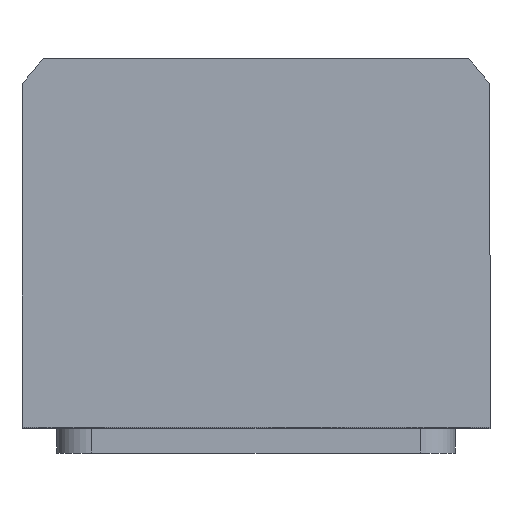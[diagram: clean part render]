
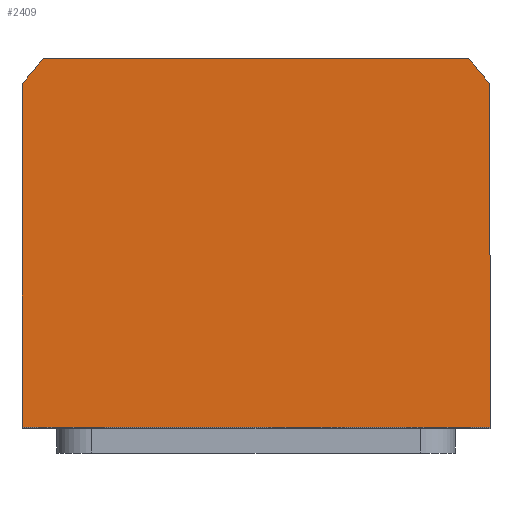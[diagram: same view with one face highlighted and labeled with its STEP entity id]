
A CAD part, top view. The second image highlights one B-rep face of the part: STEP entity #2409.
In plain terms, the highlighted planar face has unit normal (0, 0, 1).
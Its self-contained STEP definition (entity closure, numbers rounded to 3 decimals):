
#193 = VERTEX_POINT ( 'NONE', #3774 ) ;
#358 = EDGE_CURVE ( 'NONE', #725, #10307, #9234, .T. ) ;
#406 = CARTESIAN_POINT ( 'NONE',  ( 47., -34., 77.5 ) ) ;
#417 = DIRECTION ( 'NONE',  ( 0., 0., 1. ) ) ;
#419 = ORIENTED_EDGE ( 'NONE', *, *, #4591, .T. ) ;
#454 = DIRECTION ( 'NONE',  ( 1., 0., 0. ) ) ;
#625 = CARTESIAN_POINT ( 'NONE',  ( 0., 0., 77.5 ) ) ;
#707 = ORIENTED_EDGE ( 'NONE', *, *, #4336, .T. ) ;
#725 = VERTEX_POINT ( 'NONE', #7716 ) ;
#731 = CARTESIAN_POINT ( 'NONE',  ( 0., 0., 77.5 ) ) ;
#886 = AXIS2_PLACEMENT_3D ( 'NONE', #731, #2468, #3375 ) ;
#1195 = VERTEX_POINT ( 'NONE', #6519 ) ;
#1290 = CARTESIAN_POINT ( 'NONE',  ( 47., -34., 77.5 ) ) ;
#2263 = VERTEX_POINT ( 'NONE', #406 ) ;
#2293 = VERTEX_POINT ( 'NONE', #6133 ) ;
#2409 = ADVANCED_FACE ( 'NONE', ( #3773 ), #6645, .T. ) ;
#2468 = DIRECTION ( 'NONE',  ( 0., 0., 1. ) ) ;
#3350 = ORIENTED_EDGE ( 'NONE', *, *, #7232, .T. ) ;
#3375 = DIRECTION ( 'NONE',  ( 1., 0., 0. ) ) ;
#3773 = FACE_OUTER_BOUND ( 'NONE', #9616, .T. ) ;
#3774 = CARTESIAN_POINT ( 'NONE',  ( -47., -34., 77.5 ) ) ;
#3850 = LINE ( 'NONE', #4394, #4116 ) ;
#4116 = VECTOR ( 'NONE', #10332, 1000. ) ;
#4311 = EDGE_CURVE ( 'NONE', #1195, #2293, #6663, .T. ) ;
#4336 = EDGE_CURVE ( 'NONE', #2293, #193, #6010, .T. ) ;
#4394 = CARTESIAN_POINT ( 'NONE',  ( 47., 34.832, 77.5 ) ) ;
#4591 = EDGE_CURVE ( 'NONE', #193, #2263, #7323, .T. ) ;
#4650 = CARTESIAN_POINT ( 'NONE',  ( 42.688, 40., 77.5 ) ) ;
#4704 = CARTESIAN_POINT ( 'NONE',  ( 0., 0., 77.5 ) ) ;
#5808 = DIRECTION ( 'NONE',  ( -1., 0., 0. ) ) ;
#5866 = ORIENTED_EDGE ( 'NONE', *, *, #4311, .T. ) ;
#6010 = LINE ( 'NONE', #7548, #7600 ) ;
#6133 = CARTESIAN_POINT ( 'NONE',  ( -47., 34.832, 77.5 ) ) ;
#6393 = VECTOR ( 'NONE', #454, 1000. ) ;
#6476 = DIRECTION ( 'NONE',  ( 1., 0., 0. ) ) ;
#6519 = CARTESIAN_POINT ( 'NONE',  ( -42.688, 40., 77.5 ) ) ;
#6617 = DIRECTION ( 'NONE',  ( 1., 0., 0. ) ) ;
#6645 = PLANE ( 'NONE',  #886 ) ;
#6663 = CIRCLE ( 'NONE', #10754, 58.5 ) ;
#7179 = ORIENTED_EDGE ( 'NONE', *, *, #10183, .T. ) ;
#7232 = EDGE_CURVE ( 'NONE', #10307, #1195, #10625, .T. ) ;
#7323 = LINE ( 'NONE', #1290, #6393 ) ;
#7548 = CARTESIAN_POINT ( 'NONE',  ( -47., -34., 77.5 ) ) ;
#7600 = VECTOR ( 'NONE', #9918, 1000. ) ;
#7716 = CARTESIAN_POINT ( 'NONE',  ( 47., 34.832, 77.5 ) ) ;
#8247 = AXIS2_PLACEMENT_3D ( 'NONE', #4704, #417, #6476 ) ;
#8368 = CARTESIAN_POINT ( 'NONE',  ( -42.688, 40., 77.5 ) ) ;
#9234 = CIRCLE ( 'NONE', #8247, 58.5 ) ;
#9283 = VECTOR ( 'NONE', #5808, 1000. ) ;
#9616 = EDGE_LOOP ( 'NONE', ( #419, #7179, #10699, #3350, #5866, #707 ) ) ;
#9918 = DIRECTION ( 'NONE',  ( 0., -1., 0. ) ) ;
#10075 = DIRECTION ( 'NONE',  ( 0., 0., 1. ) ) ;
#10183 = EDGE_CURVE ( 'NONE', #2263, #725, #3850, .T. ) ;
#10307 = VERTEX_POINT ( 'NONE', #4650 ) ;
#10332 = DIRECTION ( 'NONE',  ( 0., 1., 0. ) ) ;
#10625 = LINE ( 'NONE', #8368, #9283 ) ;
#10699 = ORIENTED_EDGE ( 'NONE', *, *, #358, .T. ) ;
#10754 = AXIS2_PLACEMENT_3D ( 'NONE', #625, #10075, #6617 ) ;
